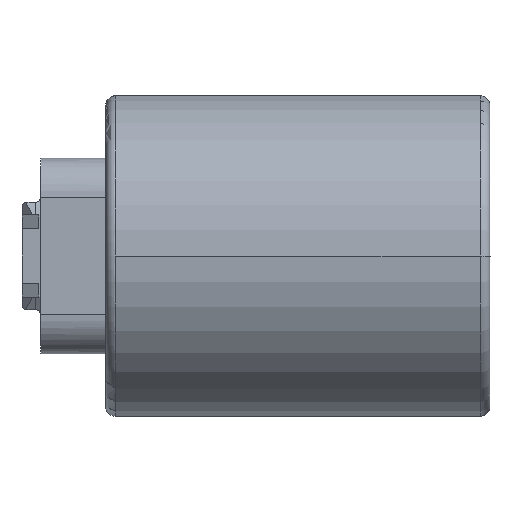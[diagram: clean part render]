
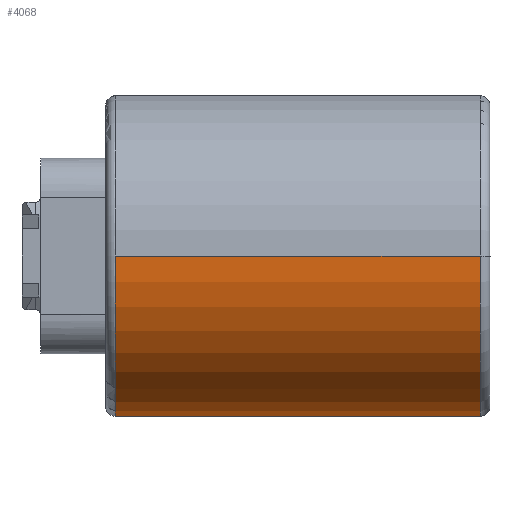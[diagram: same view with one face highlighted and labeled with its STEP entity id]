
A CAD part, front view. The second image highlights one B-rep face of the part: STEP entity #4068.
In plain terms, the highlighted cylindrical face has radius 16.5 mm (diameter 33 mm), a partial arc.
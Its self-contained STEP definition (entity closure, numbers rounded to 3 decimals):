
#213 = DIRECTION ( 'NONE',  ( -1., 0., 0. ) ) ;
#301 = VECTOR ( 'NONE', #213, 1000. ) ;
#730 = CIRCLE ( 'NONE', #4821, 16.5 ) ;
#948 = CARTESIAN_POINT ( 'NONE',  ( 39.575, -14.402, -16.375 ) ) ;
#971 = CARTESIAN_POINT ( 'NONE',  ( 40.575, -28.875, 0. ) ) ;
#1084 = CARTESIAN_POINT ( 'NONE',  ( 40.575, -12.375, 0. ) ) ;
#1121 = DIRECTION ( 'NONE',  ( -1., 0., 0. ) ) ;
#1183 = DIRECTION ( 'NONE',  ( 0., -1., 0. ) ) ;
#1341 = LINE ( 'NONE', #4948, #301 ) ;
#1469 = CARTESIAN_POINT ( 'NONE',  ( 39.575, -12.375, 0. ) ) ;
#1496 = AXIS2_PLACEMENT_3D ( 'NONE', #1084, #1121, #3533 ) ;
#1860 = CIRCLE ( 'NONE', #2703, 16.5 ) ;
#1865 = EDGE_CURVE ( 'NONE', #2658, #2845, #730, .T. ) ;
#2098 = VERTEX_POINT ( 'NONE', #948 ) ;
#2100 = VERTEX_POINT ( 'NONE', #3713 ) ;
#2137 = DIRECTION ( 'NONE',  ( 0., 1., 0. ) ) ;
#2276 = DIRECTION ( 'NONE',  ( -1., 0., 0. ) ) ;
#2307 = ORIENTED_EDGE ( 'NONE', *, *, #4412, .F. ) ;
#2451 = DIRECTION ( 'NONE',  ( 1., 0., 0. ) ) ;
#2464 = CARTESIAN_POINT ( 'NONE',  ( 2.275, -12.375, 0. ) ) ;
#2658 = VERTEX_POINT ( 'NONE', #3338 ) ;
#2703 = AXIS2_PLACEMENT_3D ( 'NONE', #1469, #4274, #1183 ) ;
#2712 = ORIENTED_EDGE ( 'NONE', *, *, #4040, .T. ) ;
#2845 = VERTEX_POINT ( 'NONE', #2960 ) ;
#2960 = CARTESIAN_POINT ( 'NONE',  ( 2.275, -14.402, -16.375 ) ) ;
#3125 = ORIENTED_EDGE ( 'NONE', *, *, #3148, .T. ) ;
#3148 = EDGE_CURVE ( 'NONE', #2098, #2100, #1860, .T. ) ;
#3338 = CARTESIAN_POINT ( 'NONE',  ( 2.275, -28.875, 0. ) ) ;
#3399 = FACE_OUTER_BOUND ( 'NONE', #4103, .T. ) ;
#3533 = DIRECTION ( 'NONE',  ( 0., -1., 0. ) ) ;
#3713 = CARTESIAN_POINT ( 'NONE',  ( 39.575, -28.875, 0. ) ) ;
#4033 = VECTOR ( 'NONE', #2276, 1000. ) ;
#4040 = EDGE_CURVE ( 'NONE', #2100, #2658, #4749, .T. ) ;
#4068 = ADVANCED_FACE ( 'NONE', ( #3399 ), #4212, .T. ) ;
#4103 = EDGE_LOOP ( 'NONE', ( #3125, #2712, #4792, #2307 ) ) ;
#4212 = CYLINDRICAL_SURFACE ( 'NONE', #1496, 16.5 ) ;
#4274 = DIRECTION ( 'NONE',  ( -1., 0., 0. ) ) ;
#4412 = EDGE_CURVE ( 'NONE', #2098, #2845, #1341, .T. ) ;
#4749 = LINE ( 'NONE', #971, #4033 ) ;
#4792 = ORIENTED_EDGE ( 'NONE', *, *, #1865, .T. ) ;
#4821 = AXIS2_PLACEMENT_3D ( 'NONE', #2464, #2451, #2137 ) ;
#4948 = CARTESIAN_POINT ( 'NONE',  ( 40.575, -14.402, -16.375 ) ) ;
